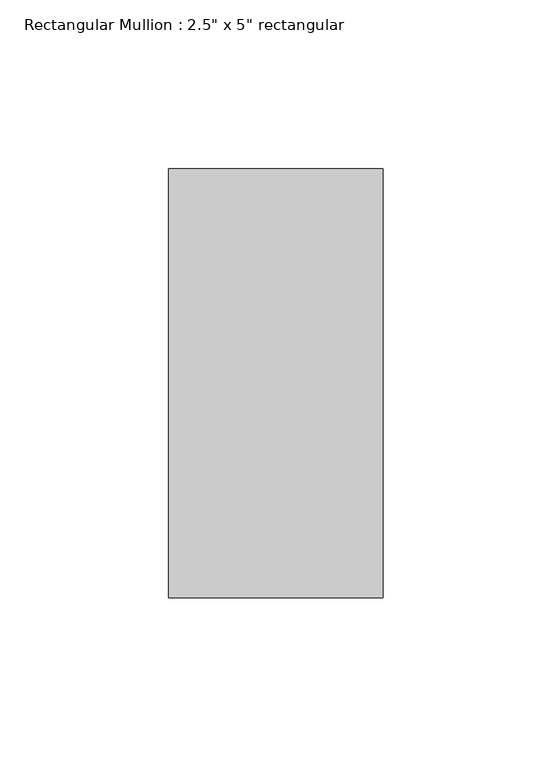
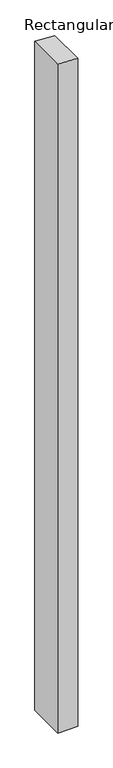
"""IFC4 building model written with IfcOpenShell, lengths in millimetres: member geometry."""

from ifc_helpers import new_model, si_unit, frame, origin, place, context, project, spatial, polyline, outline, extrude, source, transform, mapped, element, save


def member_7d3a6d7c(model_context):
    return source(origin(), model_context, "Body", "SweptSolid", [
        extrude(outline(polyline([(0.0, 0.0), (2.0430252, -63.5), (-2263.8742321, -63.5), (-2262.3677371, 0.0), (0.0, 0.0)])), frame((0.0, -63.5, 0.0), z_axis=(0.0, 1.0, 0.0), x_axis=(0.0, 0.0, 1.0)), (0.0, 0.0, 1.0), 127.0),
    ])


if __name__ == "__main__":
    model = new_model("IFC4")
    model_context = context("Model", 3, world=origin())
    ifc_project = project(units=[si_unit("LENGTHUNIT", "METRE", prefix="MILLI")], contexts=[model_context])
    site = spatial("IfcSite", under=ifc_project)
    building = spatial("IfcBuilding", under=site)
    placement = place(None, origin())
    member_shape = member_7d3a6d7c(model_context)
    element("IfcMember", 1, ObjectType="Rectangular Mullion : 2.5\" x 5\" rectangular", at=placement, inside=building, context=model_context, shape_type="MappedRepresentation", body=[
        mapped(member_shape, transform((0.0, 0.0, 0.0), x_axis=(1.0, 0.0, 0.0), y_axis=(0.0, 1.0, 0.0), z_axis=(0.0, 0.0, 1.0))),
    ])
    save(model, "model.ifc")
